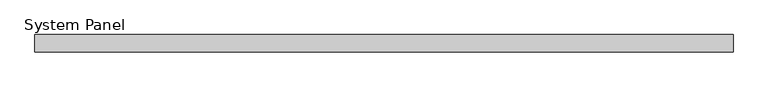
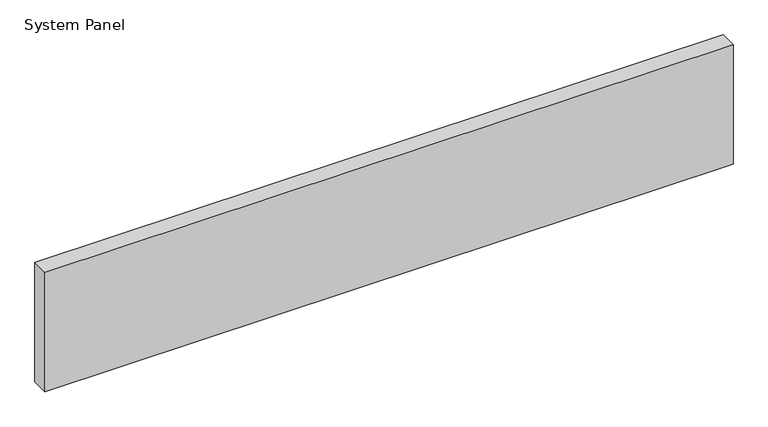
"""IFC4 building model written with IfcOpenShell, lengths in millimetres: plate geometry, System Panel : MetecnoPanel 150mm Horizontal - Plain Astro - PIR."""

from ifc_helpers import new_model, si_unit, origin, origin_with_axes, place, context, project, spatial, polyline, outline, extrude, source, transform, mapped, element, save


def system_panel_82508a70(model_context):
    return source(origin(), model_context, "Body", "SweptSolid", [
        extrude(outline(polyline([(2995.0, 0.0), (-2995.0, 0.0), (-2995.0, 150.0), (2995.0, 150.0), (2995.0, 0.0)])), origin_with_axes(), (0.0, 0.0, 1.0), 1100.0),
    ])


if __name__ == "__main__":
    model = new_model("IFC4")
    model_context = context("Model", 3, world=origin())
    ifc_project = project(units=[si_unit("LENGTHUNIT", "METRE", prefix="MILLI")], contexts=[model_context])
    site = spatial("IfcSite", under=ifc_project)
    building = spatial("IfcBuilding", under=site)
    placement = place(None, origin())
    system_panel_shape = system_panel_82508a70(model_context)
    element("IfcPlate", 1, ObjectType="System Panel : MetecnoPanel 150mm Horizontal - Plain Astro - PIR", at=placement, inside=building, context=model_context, shape_type="MappedRepresentation", body=[
        mapped(system_panel_shape, transform((0.0, 0.0, 0.0), x_axis=(1.0, 0.0, 0.0), y_axis=(0.0, 1.0, 0.0), z_axis=(0.0, 0.0, 1.0))),
    ])
    save(model, "model.ifc")
